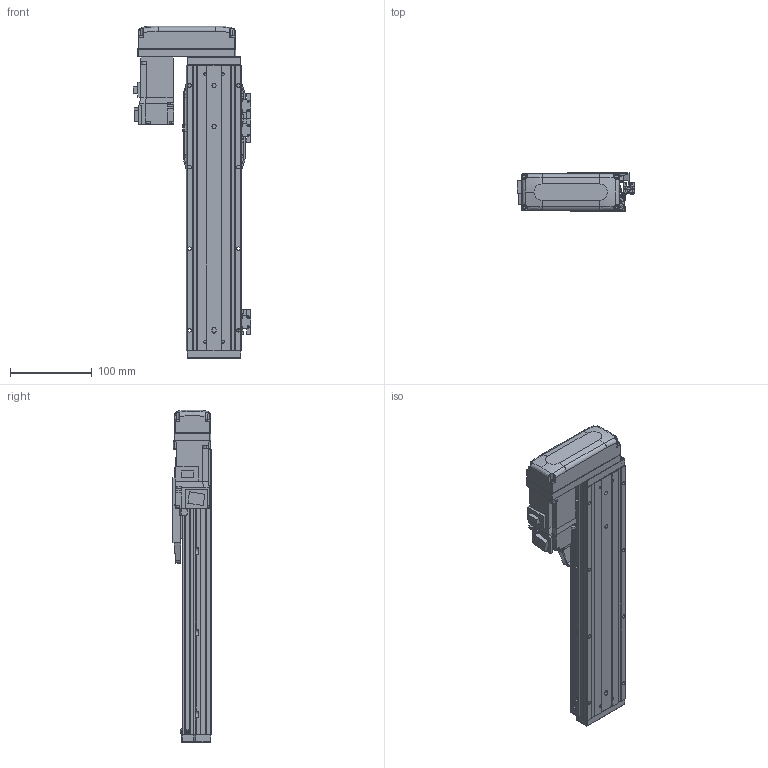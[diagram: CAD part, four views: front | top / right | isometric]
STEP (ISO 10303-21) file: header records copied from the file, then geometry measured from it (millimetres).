
FILE_DESCRIPTION (( 'STEP AP203' ), '1' );
FILE_NAME ('CTHA60-200-BR-M10-C4L.step', '2022-03-19T06:21:28', ( '微软用户' ), ( '微软中国' ), 'SwSTEP 2.0', 'SolidWorks 2020', '' );
FILE_SCHEMA (( 'CONFIG_CONTROL_DESIGN' ));
Length unit declared in the file: millimetre
Products named in the file (18): EE_SX911P_R; CTHA60-016; CTHA60-017; HG-KR13（三菱）; CTHA60-021; CTHA60-002; CTHA60-001_350; GBT 70.1-M4×16; CTHA60-031; CTHA60-004; GBT77-2000 M3×3; CTHA60-006-1; CTHA60-005; GBT 70.1-M3℅6; CTHA60-033; GB¨uT 70.2-M3¡Á6_M3¡Á6; GBT 70.3-M3℅6; CTHA60-200-BR-M10-C4L
Assembly tree (54 placements, depth 2):
  CTHA60-200-BR-M10-C4L
    CTHA60-001_350
    CTHA60-004
    CTHA60-005
    GB¨uT 70.2-M3¡Á6_M3¡Á6  x10
    EE_SX911P_R  x3
    CTHA60-017  x3
    CTHA60-021  x2
    GBT 70.1-M4×16  x10
    GBT77-2000 M3×3  x6
    GBT 70.1-M3℅6  x6
    GBT 70.3-M3℅6  x4
    CTHA60-016  x2
    HG-KR13（三菱）
    CTHA60-002
    CTHA60-031
    CTHA60-006-1
    CTHA60-033
Bounding box: 143.62 x 48 x 407 mm (x, y, z)
Volume: 836177.7 mm3; surface area: 268563.8 mm2
Topology: 56 solids, 56 shells, 2454 faces, 5869 edges, 3613 vertices
Faces by surface type: plane 1413, cylinder 559, cone 334, torus 92, bspline 32, sphere 24
Entity records: 43073 total; most frequent: CARTESIAN_POINT 8362, DIRECTION 6616, ORIENTED_EDGE 6546, EDGE_CURVE 3273, LINE 2316, VECTOR 2316, AXIS2_PLACEMENT_3D 2150, VERTEX_POINT 2072
